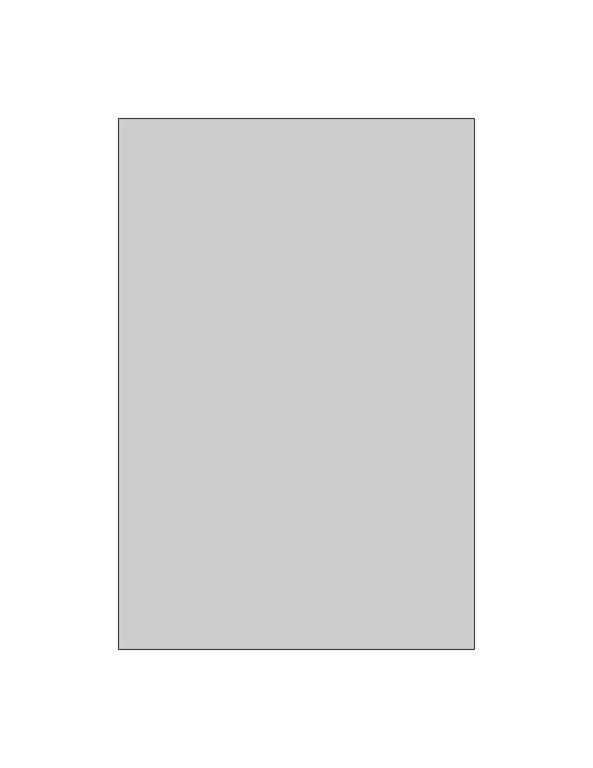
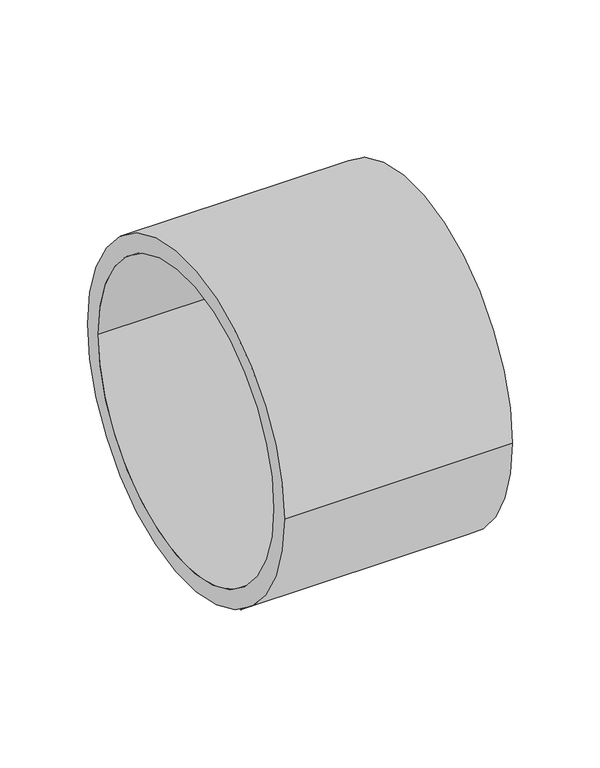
"""IFC4 building model written with IfcOpenShell, lengths in millimetres: pipe fitting geometry, NLRS_52_PIF_UN_PE thermomof_geb : DN200-300 / ø200-315."""

from ifc_helpers import new_model, si_unit, point, frame, origin, origin_2d, place, context, project, spatial, circle_curve, trimmed, segment, composite_curve, outline, extrude, source, transform, mapped, element, save


def pipe_fitting_ef94fdf8(model_context):
    return source(origin(), model_context, "Body", "SweptSolid", [
        extrude(outline(composite_curve([segment(trimmed(circle_curve(origin_2d(), 112.0), [point((-112.0, 0.0))], [point((112.0, 0.0))], False, "CARTESIAN"), True, "CONTINUOUS"), segment(trimmed(circle_curve(origin_2d(), 112.0), [point((112.0, 0.0))], [point((-112.0, 0.0))], False, "CARTESIAN"), True, "CONTINUOUS")], self_intersect=False), holes=[composite_curve([segment(trimmed(circle_curve(origin_2d(), 100.0), [point((-100.0, 0.0))], [point((100.0, 0.0))], True, "CARTESIAN"), True, "CONTINUOUS"), segment(trimmed(circle_curve(origin_2d(), 100.0), [point((100.0, 0.0))], [point((-100.0, 0.0))], True, "CARTESIAN"), True, "CONTINUOUS")], self_intersect=False)]), frame((-75.0, 0.0, 0.0), z_axis=(1.0, 0.0, 0.0), x_axis=(0.0, 1.0, 0.0)), (0.0, 0.0, 1.0), 150.0),
    ])


if __name__ == "__main__":
    model = new_model("IFC4")
    model_context = context("Model", 3, world=origin())
    ifc_project = project(units=[si_unit("LENGTHUNIT", "METRE", prefix="MILLI")], contexts=[model_context])
    site = spatial("IfcSite", under=ifc_project)
    building = spatial("IfcBuilding", under=site)
    placement = place(None, origin())
    pipe_fitting_shape = pipe_fitting_ef94fdf8(model_context)
    element("IfcPipeFitting", 1, ObjectType="NLRS_52_PIF_UN_PE thermomof_geb : DN200-300 / ø200-315", at=placement, inside=building, context=model_context, shape_type="MappedRepresentation", body=[
        mapped(pipe_fitting_shape, transform((0.0, 0.0, 0.0), x_axis=(1.0, 0.0, 0.0), y_axis=(0.0, 1.0, 0.0), z_axis=(0.0, 0.0, 1.0))),
    ])
    save(model, "model.ifc")
